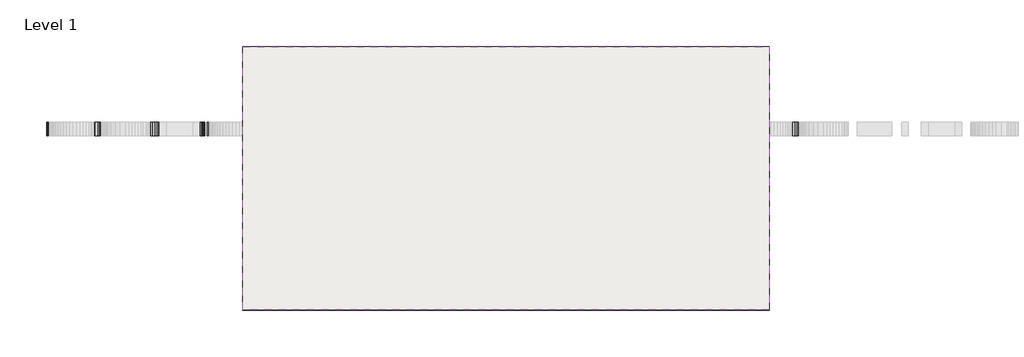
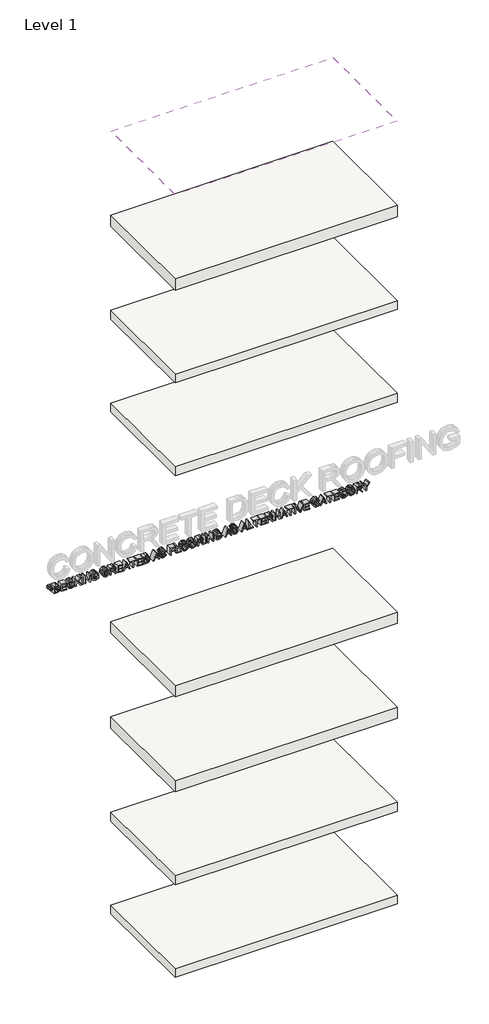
# One storey, part 1 of 2: 4 roofs, 4 slabs, 1 proxy.
"""IFC4 building model written with IfcOpenShell, lengths in millimetres."""

from ifc_helpers import new_model, si_unit, frame, origin, place, context, project, spatial, polyline, outline, extrude, element, save

model = new_model("IFC4")

# Units and contexts
model_context = context("Model", 3, world=origin())
ifc_project = project(units=[si_unit("LENGTHUNIT", "METRE", prefix="MILLI")], contexts=[model_context])

# Site, building, storey
site = spatial("IfcSite", under=ifc_project)
building = spatial("IfcBuilding", under=site)
storey = spatial("IfcBuildingStorey", under=building, Name="Level 1", Elevation=0.0)

# Proxy
placement = place(None, origin())
element("IfcBuildingElementProxy", 1, Name="8\" Alternative Note", ObjectType="8\" Alternative Note", at=placement, inside=storey, context=model_context, shape_type="SweptSolid", body=[
    extrude(outline(polyline([(-9914.1597913, -23817.1790035), (-9921.5844067, -23781.4724651), (-9946.6424836, -23805.6513112), (-9957.9259452, -23788.4086189), (-9929.3997913, -23769.1143881), (-9957.9259452, -23748.7943881), (-9946.6424836, -23731.4051574), (-9921.5844067, -23756.2678497), (-9914.1597913, -23720.2682343), (-9894.5236375, -23726.9113112), (-9907.8097913, -23761.2501574), (-9873.5197913, -23757.7820804), (-9873.5197913, -23779.6651574), (-9907.9563298, -23776.6366958), (-9894.5236375, -23810.4870804), (-9914.1597913, -23817.1790035)])), frame((0.0, 8681.5965573, 0.0), z_axis=(0.0, 1.0, 0.0), x_axis=(0.0, 0.0, 1.0)), (0.0, 0.0, 1.0), 152.4),
    extrude(outline(polyline([(-10073.5936375, -23695.2590035), (-10073.5936375, -23622.9178497), (-10070.1744067, -23590.7526574), (-10060.1365221, -23566.8424651), (-10041.990176, -23548.5740035), (-10012.8534452, -23534.8970804), (-9972.482099, -23529.5728497), (-9947.2042144, -23531.5389074), (-9924.9059452, -23537.4370804), (-9905.9536375, -23547.291792), (-9890.7136375, -23561.1274651), (-9881.9579644, -23574.5845804), (-9876.4017144, -23590.5328497), (-9873.5197913, -23626.2393881), (-9873.5197913, -23695.2590035), (-10073.5936375, -23695.2590035)]), holes=[polyline([(-10048.5844067, -23670.2497727), (-9898.5290221, -23670.2497727), (-9898.5290221, -23626.6790035), (-9902.5344067, -23591.2166958), (-9910.887099, -23577.0818401), (-9924.7105606, -23565.2549651), (-9944.835176, -23557.2503016), (-9972.0913298, -23554.5820804), (-10009.922676, -23560.0284266), (-10023.9354163, -23566.5554939), (-10034.7609452, -23575.2440035), (-10044.9697913, -23593.805542), (-10048.5844067, -23625.9951574), (-10048.5844067, -23670.2497727)])]), frame((0.0, 8681.5965573, 0.0), z_axis=(0.0, 1.0, 0.0), x_axis=(0.0, 0.0, 1.0)), (0.0, 0.0, 1.0), 152.4),
    extrude(outline(polyline([(-10073.5936375, -23495.1851574), (-10073.5936375, -23348.2559266), (-10048.5844067, -23348.2559266), (-10048.5844067, -23470.1759266), (-9982.935176, -23470.1759266), (-9982.935176, -23357.6343881), (-9957.9259452, -23357.6343881), (-9957.9259452, -23470.1759266), (-9898.5290221, -23470.1759266), (-9898.5290221, -23351.3820804), (-9873.5197913, -23351.3820804), (-9873.5197913, -23495.1851574), (-10073.5936375, -23495.1851574)])), frame((0.0, 8681.5965573, 0.0), z_axis=(0.0, 1.0, 0.0), x_axis=(0.0, 0.0, 1.0)), (0.0, 0.0, 1.0), 152.4),
    extrude(outline(polyline([(-10002.4736375, -23170.0651574), (-10023.892676, -23178.1553016), (-10039.3036375, -23191.2888112), (-10048.6088298, -23208.6841477), (-10051.7105606, -23229.5597727), (-10049.4331086, -23247.4679939), (-10042.6007529, -23264.0695804), (-10031.1646471, -23277.9174651), (-10015.0759452, -23287.5645804), (-9995.0978683, -23293.2246285), (-9971.9936375, -23295.1113112), (-9953.1268106, -23293.5177054), (-9934.8217144, -23288.7368881), (-9918.6292144, -23280.0239554), (-9906.100176, -23266.6340035), (-9898.0771952, -23248.9883304), (-9895.4028683, -23227.5082343), (-9897.8146471, -23208.8734266), (-9905.0499836, -23193.7066958), (-9917.5607048, -23181.8615035), (-9935.7986375, -23173.1913112), (-9929.8394067, -23148.1820804), (-9904.7324836, -23159.227417), (-9885.9755606, -23176.4395804), (-9874.2891183, -23199.1103016), (-9870.3936375, -23226.5313112), (-9873.4037817, -23251.6626574), (-9882.4342144, -23274.5959266), (-9897.2651279, -23293.9328977), (-9917.6767144, -23308.2753497), (-9942.8691183, -23317.1592439), (-9972.0424836, -23320.120542), (-9999.7016183, -23317.501167), (-10025.5290221, -23309.643042), (-10047.4975798, -23296.7720804), (-10063.580176, -23279.1141958), (-10073.4348875, -23256.0771285), (-10076.7197913, -23227.0686189), (-10072.3785894, -23198.4936189), (-10059.3549836, -23174.705542), (-10038.0641663, -23156.5958304), (-10008.9213298, -23145.0559266), (-10002.4736375, -23170.0651574)])), frame((0.0, 8681.5965573, 0.0), z_axis=(0.0, 1.0, 0.0), x_axis=(0.0, 0.0, 1.0)), (0.0, 0.0, 1.0), 152.4),
    extrude(outline(polyline([(-10073.5936375, -23110.6682343), (-10073.5936375, -23085.6590035), (-10004.8182529, -23085.6590035), (-9972.6774836, -23051.9551574), (-10073.5936375, -22975.5597727), (-10073.5936375, -22944.9820804), (-9955.7767144, -23034.2240035), (-9873.5197913, -22948.1082343), (-9873.5197913, -22983.0820804), (-9971.4563298, -23085.6590035), (-9873.5197913, -23085.6590035), (-9873.5197913, -23110.6682343), (-10073.5936375, -23110.6682343)])), frame((0.0, 8681.5965573, 0.0), z_axis=(0.0, 1.0, 0.0), x_axis=(0.0, 0.0, 1.0)), (0.0, 0.0, 1.0), 152.4),
    extrude(outline(polyline([(-22898.0897727, 8681.5965573), (-22923.0990035, 8681.5965573), (-22923.0990035, 8833.9965573), (-22898.0897727, 8833.9965573), (-22898.0897727, 8681.5965573)])), frame((0.0, 0.0, -10073.5936375), z_axis=(0.0, 0.0, 1.0), x_axis=(1.0, 0.0, 0.0)), (0.0, 0.0, 1.0), 200.0738462),
    extrude(outline(polyline([(-10073.5936375, -22848.0713112), (-10073.5936375, -22823.0620804), (-9915.0390221, -22823.0620804), (-10073.5936375, -22718.5313112), (-10073.5936375, -22691.7636189), (-9873.5197913, -22691.7636189), (-9873.5197913, -22716.7728497), (-10032.0255606, -22716.7728497), (-9873.5197913, -22821.3036189), (-9873.5197913, -22848.0713112), (-10073.5936375, -22848.0713112)])), frame((0.0, 8681.5965573, 0.0), z_axis=(0.0, 1.0, 0.0), x_axis=(0.0, 0.0, 1.0)), (0.0, 0.0, 1.0), 152.4),
    extrude(outline(polyline([(-9995.4397913, -22554.2128497), (-9995.4397913, -22497.9420804), (-10031.5859452, -22497.9420804), (-10045.2872913, -22523.2688112), (-10050.1047433, -22540.1634747), (-10051.7105606, -22557.485542), (-10049.5796471, -22577.1033785), (-10043.1869067, -22595.6099651), (-10032.4041183, -22611.4239074), (-10017.1030606, -22622.9638112), (-9997.4241663, -22630.0159747), (-9973.5078683, -22632.3666958), (-9953.114599, -22630.4128497), (-9934.2355606, -22624.5513112), (-9914.9657529, -22611.6803497), (-9900.8003683, -22589.8949651), (-9895.4028683, -22557.8763112), (-9900.409599, -22529.7653497), (-9913.744599, -22510.2757343), (-9936.8732529, -22498.8701574), (-9930.3767144, -22475.8147727), (-9911.894551, -22482.1830901), (-9897.2834452, -22490.9326574), (-9885.9999836, -22502.7595324), (-9877.5007529, -22518.3597727), (-9872.1704163, -22536.8846766), (-9870.3936375, -22557.485542), (-9873.4587336, -22585.5476574), (-9882.6540221, -22610.1416958), (-9898.1565702, -22630.3334747), (-9920.1434452, -22645.1888112), (-9946.3555125, -22654.3291477), (-9974.5336375, -22657.3759266), (-10002.5102721, -22654.3169362), (-10027.727099, -22645.1399651), (-10048.7492625, -22629.9610227), (-10064.1419067, -22608.8961189), (-10073.5753202, -22583.5388593), (-10076.7197913, -22555.4828497), (-10074.7415221, -22534.0088593), (-10068.8067144, -22513.0599651), (-10058.9520029, -22492.6850131), (-10045.2140221, -22472.9328497), (-9970.4305606, -22472.9328497), (-9970.4305606, -22554.2128497), (-9995.4397913, -22554.2128497)])), frame((0.0, 8681.5965573, 0.0), z_axis=(0.0, 1.0, 0.0), x_axis=(0.0, 0.0, 1.0)), (0.0, 0.0, 1.0), 152.4),
    extrude(outline(polyline([(-10002.4736375, -22213.4620804), (-10023.892676, -22221.5522247), (-10039.3036375, -22234.6857343), (-10048.6088298, -22252.0810708), (-10051.7105606, -22272.9566958), (-10049.4331086, -22290.864917), (-10042.6007529, -22307.4665035), (-10031.1646471, -22321.3143881), (-10015.0759452, -22330.9615035), (-9995.0978683, -22336.6215516), (-9971.9936375, -22338.5082343), (-9953.1268106, -22336.9146285), (-9934.8217144, -22332.1338112), (-9918.6292144, -22323.4208785), (-9906.100176, -22310.0309266), (-9898.0771952, -22292.3852535), (-9895.4028683, -22270.9051574), (-9897.8146471, -22252.2703497), (-9905.0499836, -22237.1036189), (-9917.5607048, -22225.2584266), (-9935.7986375, -22216.5882343), (-9929.8394067, -22191.5790035), (-9904.7324836, -22202.6243401), (-9885.9755606, -22219.8365035), (-9874.2891183, -22242.5072247), (-9870.3936375, -22269.9282343), (-9873.4037817, -22295.0595804), (-9882.4342144, -22317.9928497), (-9897.2651279, -22337.3298208), (-9917.6767144, -22351.6722727), (-9942.8691183, -22360.556167), (-9972.0424836, -22363.5174651), (-9999.7016183, -22360.8980901), (-10025.5290221, -22353.0399651), (-10047.4975798, -22340.1690035), (-10063.580176, -22322.5111189), (-10073.4348875, -22299.4740516), (-10076.7197913, -22270.465542), (-10072.3785894, -22241.890542), (-10059.3549836, -22218.1024651), (-10038.0641663, -22199.9927535), (-10008.9213298, -22188.4528497), (-10002.4736375, -22213.4620804)])), frame((0.0, 8681.5965573, 0.0), z_axis=(0.0, 1.0, 0.0), x_axis=(0.0, 0.0, 1.0)), (0.0, 0.0, 1.0), 152.4),
    extrude(outline(polyline([(-10073.5936375, -22154.0651574), (-10073.5936375, -22129.0559266), (-9986.0613298, -22129.0559266), (-9986.0613298, -22098.8690035), (-9986.9405606, -22084.3616958), (-9991.7030606, -22072.4676574), (-10004.6717144, -22059.2547727), (-10032.1232529, -22040.4490035), (-10073.5936375, -22014.4140035), (-10073.5936375, -21985.350542), (-10019.3744067, -22018.7124651), (-9993.6324836, -22038.9836189), (-9982.935176, -22053.1978497), (-9976.3043106, -22028.5610708), (-9964.3247913, -22011.3122727), (-9947.9857529, -22001.146167), (-9928.2763298, -21997.7574651), (-9912.4318586, -21999.8028977), (-9898.0161375, -22005.9391958), (-9886.3907529, -22015.5008304), (-9878.9172913, -22027.8222727), (-9874.8691663, -22044.6803016), (-9873.5197913, -22067.8516958), (-9873.5197913, -22154.0651574), (-10073.5936375, -22154.0651574)]), holes=[polyline([(-9961.052099, -22129.0559266), (-9898.5290221, -22129.0559266), (-9898.5290221, -22066.7770804), (-9900.6904644, -22046.9882824), (-9907.1747913, -22033.3418881), (-9917.0050798, -22025.4104939), (-9929.2044067, -22022.7666958), (-9946.1784452, -22028.3107343), (-9952.9070029, -22035.1369843), (-9957.5107529, -22044.5276574), (-9961.052099, -22073.0782343), (-9961.052099, -22129.0559266)])]), frame((0.0, 8681.5965573, 0.0), z_axis=(0.0, 1.0, 0.0), x_axis=(0.0, 0.0, 1.0)), (0.0, 0.0, 1.0), 152.4),
    extrude(outline(polyline([(-10073.5936375, -21953.9913112), (-10073.5936375, -21807.0620804), (-10048.5844067, -21807.0620804), (-10048.5844067, -21928.9820804), (-9982.935176, -21928.9820804), (-9982.935176, -21816.440542), (-9957.9259452, -21816.440542), (-9957.9259452, -21928.9820804), (-9898.5290221, -21928.9820804), (-9898.5290221, -21810.1882343), (-9873.5197913, -21810.1882343), (-9873.5197913, -21953.9913112), (-10073.5936375, -21953.9913112)])), frame((0.0, 8681.5965573, 0.0), z_axis=(0.0, 1.0, 0.0), x_axis=(0.0, 0.0, 1.0)), (0.0, 0.0, 1.0), 152.4),
    extrude(outline(polyline([(-10073.5936375, -21792.8478497), (-10073.5936375, -21766.4220804), (-10011.0705606, -21743.5620804), (-10011.0705606, -21661.1586189), (-10073.5936375, -21638.2497727), (-10073.5936375, -21611.8240035), (-9873.5197913, -21691.6874651), (-9873.5197913, -21712.9843881), (-10073.5936375, -21792.8478497)]), holes=[polyline([(-9986.0613298, -21734.3790035), (-9932.5747913, -21714.7916958), (-9898.5290221, -21702.3359266), (-9936.8732529, -21688.3170804), (-9986.0613298, -21670.2928497), (-9986.0613298, -21734.3790035)])]), frame((0.0, 8681.5965573, 0.0), z_axis=(0.0, 1.0, 0.0), x_axis=(0.0, 0.0, 1.0)), (0.0, 0.0, 1.0), 152.4),
    extrude(outline(polyline([(-10073.5936375, -21535.0866958), (-10073.5936375, -21510.0774651), (-9898.5290221, -21510.0774651), (-9898.5290221, -21444.4282343), (-9873.5197913, -21444.4282343), (-9873.5197913, -21600.7359266), (-9898.5290221, -21600.7359266), (-9898.5290221, -21535.0866958), (-10073.5936375, -21535.0866958)])), frame((0.0, 8681.5965573, 0.0), z_axis=(0.0, 1.0, 0.0), x_axis=(0.0, 0.0, 1.0)), (0.0, 0.0, 1.0), 152.4),
    extrude(outline(polyline([(-10073.5936375, -21416.2928497), (-10073.5936375, -21269.3636189), (-10048.5844067, -21269.3636189), (-10048.5844067, -21391.2836189), (-9982.935176, -21391.2836189), (-9982.935176, -21278.7420804), (-9957.9259452, -21278.7420804), (-9957.9259452, -21391.2836189), (-9898.5290221, -21391.2836189), (-9898.5290221, -21272.4897727), (-9873.5197913, -21272.4897727), (-9873.5197913, -21416.2928497), (-10073.5936375, -21416.2928497)])), frame((0.0, 8681.5965573, 0.0), z_axis=(0.0, 1.0, 0.0), x_axis=(0.0, 0.0, 1.0)), (0.0, 0.0, 1.0), 152.4),
    extrude(outline(polyline([(-10073.5936375, -21231.8497727), (-10073.5936375, -21159.5086189), (-10070.1744067, -21127.3434266), (-10060.1365221, -21103.4332343), (-10041.990176, -21085.1647727), (-10012.8534452, -21071.4878497), (-9972.482099, -21066.1636189), (-9947.2042144, -21068.1296766), (-9924.9059452, -21074.0278497), (-9905.9536375, -21083.8825612), (-9890.7136375, -21097.7182343), (-9881.9579644, -21111.1753497), (-9876.4017144, -21127.1236189), (-9873.5197913, -21162.8301574), (-9873.5197913, -21231.8497727), (-10073.5936375, -21231.8497727)]), holes=[polyline([(-10048.5844067, -21206.840542), (-9898.5290221, -21206.840542), (-9898.5290221, -21163.2697727), (-9902.5344067, -21127.8074651), (-9910.887099, -21113.6726093), (-9924.7105606, -21101.8457343), (-9944.835176, -21093.8410708), (-9972.0913298, -21091.1728497), (-10009.922676, -21096.6191958), (-10023.9354163, -21103.1462631), (-10034.7609452, -21111.8347727), (-10044.9697913, -21130.3963112), (-10048.5844067, -21162.5859266), (-10048.5844067, -21206.840542)])]), frame((0.0, 8681.5965573, 0.0), z_axis=(0.0, 1.0, 0.0), x_axis=(0.0, 0.0, 1.0)), (0.0, 0.0, 1.0), 152.4),
    extrude(outline(polyline([(-10073.5936375, -20976.9216958), (-10073.5936375, -20950.4959266), (-10011.0705606, -20927.6359266), (-10011.0705606, -20845.2324651), (-10073.5936375, -20822.3236189), (-10073.5936375, -20795.8978497), (-9873.5197913, -20875.7613112), (-9873.5197913, -20897.0582343), (-10073.5936375, -20976.9216958)]), holes=[polyline([(-9986.0613298, -20918.4528497), (-9932.5747913, -20898.865542), (-9898.5290221, -20886.4097727), (-9936.8732529, -20872.3909266), (-9986.0613298, -20854.3666958), (-9986.0613298, -20918.4528497)])]), frame((0.0, 8681.5965573, 0.0), z_axis=(0.0, 1.0, 0.0), x_axis=(0.0, 0.0, 1.0)), (0.0, 0.0, 1.0), 152.4),
    extrude(outline(polyline([(-10004.8182529, -20778.5574651), (-10025.0161375, -20775.5900612), (-10043.0159452, -20767.7624651), (-10057.7919067, -20755.5692439), (-10068.3182529, -20739.5049651), (-10074.6194067, -20719.3376093), (-10076.7197913, -20694.8351574), (-10074.772051, -20674.8753977), (-10068.9288298, -20657.0038112), (-10059.5747913, -20642.1423689), (-10047.094599, -20631.213042), (-10032.5933971, -20624.4905901), (-10017.1763298, -20622.2497727), (-10002.0950798, -20624.1975131), (-9988.8944067, -20630.0407343), (-9977.696426, -20639.9870324), (-9968.6232529, -20654.2440035), (-9956.0697913, -20698.4986189), (-9949.0115221, -20725.2174651), (-9942.0997913, -20739.3340035), (-9934.3698875, -20745.3054458), (-9924.7594067, -20747.2959266), (-9913.4881567, -20744.4872727), (-9903.9997913, -20736.0613112), (-9897.552099, -20721.4929458), (-9895.4028683, -20700.2570804), (-9897.5765221, -20679.5096766), (-9904.0974836, -20664.550542), (-9914.8680606, -20654.9766958), (-9929.7905606, -20650.3851574), (-9929.7905606, -20625.3759266), (-9913.2195029, -20628.196792), (-9898.480176, -20635.2916958), (-9886.3296952, -20646.5018881), (-9877.525176, -20661.6686189), (-9872.1765221, -20680.1324651), (-9870.3936375, -20701.2340035), (-9872.0971471, -20720.7114074), (-9877.207676, -20738.3082343), (-9885.6092144, -20752.9681862), (-9897.1857529, -20763.6349651), (-9910.8443586, -20770.1376093), (-9925.492099, -20772.3051574), (-9938.5950798, -20770.5528016), (-9950.3547913, -20765.2957343), (-9960.551426, -20756.4728977), (-9968.965176, -20744.0232343), (-9981.2988298, -20704.8241958), (-9990.8482529, -20668.4093881), (-9996.032051, -20657.7365035), (-10002.2049836, -20651.4109266), (-10017.8113298, -20647.2590035), (-10034.5899836, -20652.803042), (-10047.1434452, -20669.6793881), (-10051.7105606, -20695.8120804), (-10050.2024356, -20711.6382343), (-10045.6780606, -20725.8036189), (-10038.7052721, -20737.3923689), (-10029.8519067, -20745.4886189), (-10004.8182529, -20753.5482343), (-10004.8182529, -20778.5574651)])), frame((0.0, 8681.5965573, 0.0), z_axis=(0.0, 1.0, 0.0), x_axis=(0.0, 0.0, 1.0)), (0.0, 0.0, 1.0), 152.4),
    extrude(outline(polyline([(-10073.5936375, -20506.5820804), (-10073.5936375, -20481.5728497), (-9982.935176, -20481.5728497), (-9982.935176, -20387.7882343), (-9957.9259452, -20387.7882343), (-9957.9259452, -20481.5728497), (-9898.5290221, -20481.5728497), (-9898.5290221, -20372.1574651), (-9873.5197913, -20372.1574651), (-9873.5197913, -20506.5820804), (-10073.5936375, -20506.5820804)])), frame((0.0, 8681.5965573, 0.0), z_axis=(0.0, 1.0, 0.0), x_axis=(0.0, 0.0, 1.0)), (0.0, 0.0, 1.0), 152.4),
    extrude(outline(polyline([(-10073.5936375, -20337.7697727), (-10073.5936375, -20212.7236189), (-10048.5844067, -20212.7236189), (-10048.5844067, -20312.760542), (-9873.5197913, -20312.760542), (-9873.5197913, -20337.7697727), (-10073.5936375, -20337.7697727)])), frame((0.0, 8681.5965573, 0.0), z_axis=(0.0, 1.0, 0.0), x_axis=(0.0, 0.0, 1.0)), (0.0, 0.0, 1.0), 152.4),
    extrude(outline(polyline([(-9976.1944067, -20193.9666958), (-10001.7836856, -20191.1091958), (-10025.9930606, -20182.5366958), (-10047.0335413, -20168.4201574), (-10063.1161375, -20148.930542), (-10073.3188779, -20125.2645804), (-10076.7197913, -20098.6190035), (-10073.6424836, -20073.5181862), (-10064.4105606, -20050.188042), (-10049.1949836, -20030.2954458), (-10028.1667144, -20015.5072727), (-10002.6323875, -20006.3303016), (-9973.8986375, -20003.2713112), (-9945.5434452, -20006.1776574), (-9920.3632529, -20014.8966958), (-9899.3716183, -20029.1597727), (-9883.582099, -20048.6982343), (-9873.6907529, -20072.2298689), (-9870.3936375, -20098.4724651), (-9872.1490461, -20118.581816), (-9877.4152721, -20136.7556381), (-9886.1923154, -20152.9939314), (-9898.480176, -20167.2966958), (-9913.8697673, -20178.9648208), (-9931.9520029, -20187.2991958), (-9952.7268827, -20192.2998208), (-9976.1944067, -20193.9666958)]), holes=[polyline([(-9976.4386375, -20168.9574651), (-9939.0163779, -20163.7431381), (-9924.9898995, -20157.2252295), (-9914.0865221, -20148.1001574), (-9900.0737817, -20125.2279458), (-9895.4028683, -20098.3259266), (-9897.8268586, -20078.9645324), (-9905.0988298, -20061.618042), (-9916.7791663, -20047.2389554), (-9932.4282529, -20036.7797727), (-9951.5637336, -20030.4053497), (-9973.7032529, -20028.280542), (-10006.8087336, -20033.2445324), (-10020.1651038, -20039.4495203), (-10031.3905606, -20048.1365035), (-10046.6305606, -20070.7217439), (-10051.7105606, -20098.765542), (-10046.6794067, -20126.4063593), (-10031.5859452, -20148.9549651), (-10007.7368106, -20163.9568401), (-9976.4386375, -20168.9574651)])]), frame((0.0, 8681.5965573, 0.0), z_axis=(0.0, 1.0, 0.0), x_axis=(0.0, 0.0, 1.0)), (0.0, 0.0, 1.0), 152.4),
    extrude(outline(polyline([(-9976.1944067, -19978.2620804), (-10001.7836856, -19975.4045804), (-10025.9930606, -19966.8320804), (-10047.0335413, -19952.715542), (-10063.1161375, -19933.2259266), (-10073.3188779, -19909.5599651), (-10076.7197913, -19882.9143881), (-10073.6424836, -19857.8135708), (-10064.4105606, -19834.4834266), (-10049.1949836, -19814.5908304), (-10028.1667144, -19799.8026574), (-10002.6323875, -19790.6256862), (-9973.8986375, -19787.5666958), (-9945.5434452, -19790.473042), (-9920.3632529, -19799.1920804), (-9899.3716183, -19813.4551574), (-9883.582099, -19832.9936189), (-9873.6907529, -19856.5252535), (-9870.3936375, -19882.7678497), (-9872.1490461, -19902.8772006), (-9877.4152721, -19921.0510227), (-9886.1923154, -19937.289316), (-9898.480176, -19951.5920804), (-9913.8697673, -19963.2602054), (-9931.9520029, -19971.5945804), (-9952.7268827, -19976.5952054), (-9976.1944067, -19978.2620804)]), holes=[polyline([(-9976.4386375, -19953.2528497), (-9939.0163779, -19948.0385227), (-9924.9898995, -19941.5206141), (-9914.0865221, -19932.395542), (-9900.0737817, -19909.5233304), (-9895.4028683, -19882.6213112), (-9897.8268586, -19863.259917), (-9905.0988298, -19845.9134266), (-9916.7791663, -19831.5343401), (-9932.4282529, -19821.0751574), (-9951.5637336, -19814.7007343), (-9973.7032529, -19812.5759266), (-10006.8087336, -19817.539917), (-10020.1651038, -19823.744905), (-10031.3905606, -19832.4318881), (-10046.6305606, -19855.0171285), (-10051.7105606, -19883.0609266), (-10046.6794067, -19910.7017439), (-10031.5859452, -19933.2503497), (-10007.7368106, -19948.2522247), (-9976.4386375, -19953.2528497)])]), frame((0.0, 8681.5965573, 0.0), z_axis=(0.0, 1.0, 0.0), x_axis=(0.0, 0.0, 1.0)), (0.0, 0.0, 1.0), 152.4),
    extrude(outline(polyline([(-10073.5936375, -19753.1790035), (-10073.5936375, -19728.1697727), (-9986.0613298, -19728.1697727), (-9986.0613298, -19697.9828497), (-9986.9405606, -19683.475542), (-9991.7030606, -19671.5815035), (-10004.6717144, -19658.3686189), (-10032.1232529, -19639.5628497), (-10073.5936375, -19613.5278497), (-10073.5936375, -19584.4643881), (-10019.3744067, -19617.8263112), (-9993.6324836, -19638.0974651), (-9982.935176, -19652.3116958), (-9976.3043106, -19627.674917), (-9964.3247913, -19610.4261189), (-9947.9857529, -19600.2600131), (-9928.2763298, -19596.8713112), (-9912.4318586, -19598.9167439), (-9898.0161375, -19605.053042), (-9886.3907529, -19614.6146766), (-9878.9172913, -19626.9361189), (-9874.8691663, -19643.7941477), (-9873.5197913, -19666.965542), (-9873.5197913, -19753.1790035), (-10073.5936375, -19753.1790035)]), holes=[polyline([(-9961.052099, -19728.1697727), (-9898.5290221, -19728.1697727), (-9898.5290221, -19665.8909266), (-9900.6904644, -19646.1021285), (-9907.1747913, -19632.4557343), (-9917.0050798, -19624.5243401), (-9929.2044067, -19621.880542), (-9946.1784452, -19627.4245804), (-9952.9070029, -19634.2508304), (-9957.5107529, -19643.6415035), (-9961.052099, -19672.1920804), (-9961.052099, -19728.1697727)])]), frame((0.0, 8681.5965573, 0.0), z_axis=(0.0, 1.0, 0.0), x_axis=(0.0, 0.0, 1.0)), (0.0, 0.0, 1.0), 152.4),
    extrude(outline(polyline([(-19524.9697727, 8681.5965573), (-19549.9790035, 8681.5965573), (-19549.9790035, 8833.9965573), (-19524.9697727, 8833.9965573), (-19524.9697727, 8681.5965573)])), frame((0.0, 0.0, -10073.5936375), z_axis=(0.0, 0.0, 1.0), x_axis=(1.0, 0.0, 0.0)), (0.0, 0.0, 1.0), 200.0738462),
    extrude(outline(polyline([(-10073.5936375, -19474.9513112), (-10073.5936375, -19449.9420804), (-9915.0390221, -19449.9420804), (-10073.5936375, -19345.4113112), (-10073.5936375, -19318.6436189), (-9873.5197913, -19318.6436189), (-9873.5197913, -19343.6528497), (-10032.0255606, -19343.6528497), (-9873.5197913, -19448.1836189), (-9873.5197913, -19474.9513112), (-10073.5936375, -19474.9513112)])), frame((0.0, 8681.5965573, 0.0), z_axis=(0.0, 1.0, 0.0), x_axis=(0.0, 0.0, 1.0)), (0.0, 0.0, 1.0), 152.4),
    extrude(outline(polyline([(-9995.4397913, -19181.0928497), (-9995.4397913, -19124.8220804), (-10031.5859452, -19124.8220804), (-10045.2872913, -19150.1488112), (-10050.1047433, -19167.0434747), (-10051.7105606, -19184.365542), (-10049.5796471, -19203.9833785), (-10043.1869067, -19222.4899651), (-10032.4041183, -19238.3039074), (-10017.1030606, -19249.8438112), (-9997.4241663, -19256.8959747), (-9973.5078683, -19259.2466958), (-9953.114599, -19257.2928497), (-9934.2355606, -19251.4313112), (-9914.9657529, -19238.5603497), (-9900.8003683, -19216.7749651), (-9895.4028683, -19184.7563112), (-9900.409599, -19156.6453497), (-9913.744599, -19137.1557343), (-9936.8732529, -19125.7501574), (-9930.3767144, -19102.6947727), (-9911.894551, -19109.0630901), (-9897.2834452, -19117.8126574), (-9885.9999836, -19129.6395324), (-9877.5007529, -19145.2397727), (-9872.1704163, -19163.7646766), (-9870.3936375, -19184.365542), (-9873.4587336, -19212.4276574), (-9882.6540221, -19237.0216958), (-9898.1565702, -19257.2134747), (-9920.1434452, -19272.0688112), (-9946.3555125, -19281.2091477), (-9974.5336375, -19284.2559266), (-10002.5102721, -19281.1969362), (-10027.727099, -19272.0199651), (-10048.7492625, -19256.8410227), (-10064.1419067, -19235.7761189), (-10073.5753202, -19210.4188593), (-10076.7197913, -19182.3628497), (-10074.7415221, -19160.8888593), (-10068.8067144, -19139.9399651), (-10058.9520029, -19119.5650131), (-10045.2140221, -19099.8128497), (-9970.4305606, -19099.8128497), (-9970.4305606, -19181.0928497), (-9995.4397913, -19181.0928497)])), frame((0.0, 8681.5965573, 0.0), z_axis=(0.0, 1.0, 0.0), x_axis=(0.0, 0.0, 1.0)), (0.0, 0.0, 1.0), 152.4),
    extrude(outline(polyline([(-10073.5936375, -19004.3186189), (-10073.5936375, -18977.8928497), (-10011.0705606, -18955.0328497), (-10011.0705606, -18872.6293881), (-10073.5936375, -18849.720542), (-10073.5936375, -18823.2947727), (-9873.5197913, -18903.1582343), (-9873.5197913, -18924.4551574), (-10073.5936375, -19004.3186189)]), holes=[polyline([(-9986.0613298, -18945.8497727), (-9932.5747913, -18926.2624651), (-9898.5290221, -18913.8066958), (-9936.8732529, -18899.7878497), (-9986.0613298, -18881.7636189), (-9986.0613298, -18945.8497727)])]), frame((0.0, 8681.5965573, 0.0), z_axis=(0.0, 1.0, 0.0), x_axis=(0.0, 0.0, 1.0)), (0.0, 0.0, 1.0), 152.4),
    extrude(outline(polyline([(-10004.8182529, -18805.9543881), (-10025.0161375, -18802.9869843), (-10043.0159452, -18795.1593881), (-10057.7919067, -18782.966167), (-10068.3182529, -18766.9018881), (-10074.6194067, -18746.7345324), (-10076.7197913, -18722.2320804), (-10074.772051, -18702.2723208), (-10068.9288298, -18684.4007343), (-10059.5747913, -18669.539292), (-10047.094599, -18658.6099651), (-10032.5933971, -18651.8875131), (-10017.1763298, -18649.6466958), (-10002.0950798, -18651.5944362), (-9988.8944067, -18657.4376574), (-9977.696426, -18667.3839554), (-9968.6232529, -18681.6409266), (-9956.0697913, -18725.895542), (-9949.0115221, -18752.6143881), (-9942.0997913, -18766.7309266), (-9934.3698875, -18772.7023689), (-9924.7594067, -18774.6928497), (-9913.4881567, -18771.8841958), (-9903.9997913, -18763.4582343), (-9897.552099, -18748.8898689), (-9895.4028683, -18727.6540035), (-9897.5765221, -18706.9065997), (-9904.0974836, -18691.9474651), (-9914.8680606, -18682.3736189), (-9929.7905606, -18677.7820804), (-9929.7905606, -18652.7728497), (-9913.2195029, -18655.5937151), (-9898.480176, -18662.6886189), (-9886.3296952, -18673.8988112), (-9877.525176, -18689.065542), (-9872.1765221, -18707.5293881), (-9870.3936375, -18728.6309266), (-9872.0971471, -18748.1083304), (-9877.207676, -18765.7051574), (-9885.6092144, -18780.3651093), (-9897.1857529, -18791.0318881), (-9910.8443586, -18797.5345324), (-9925.492099, -18799.7020804), (-9938.5950798, -18797.9497247), (-9950.3547913, -18792.6926574), (-9960.551426, -18783.8698208), (-9968.965176, -18771.4201574), (-9981.2988298, -18732.2211189), (-9990.8482529, -18695.8063112), (-9996.032051, -18685.1334266), (-10002.2049836, -18678.8078497), (-10017.8113298, -18674.6559266), (-10034.5899836, -18680.1999651), (-10047.1434452, -18697.0763112), (-10051.7105606, -18723.2090035), (-10050.2024356, -18739.0351574), (-10045.6780606, -18753.200542), (-10038.7052721, -18764.789292), (-10029.8519067, -18772.885542), (-10004.8182529, -18780.9451574), (-10004.8182529, -18805.9543881)])), frame((0.0, 8681.5965573, 0.0), z_axis=(0.0, 1.0, 0.0), x_axis=(0.0, 0.0, 1.0)), (0.0, 0.0, 1.0), 152.4),
    extrude(outline(polyline([(-10073.5936375, -18557.2786189), (-10073.5936375, -18530.8528497), (-10011.0705606, -18507.9928497), (-10011.0705606, -18425.5893881), (-10073.5936375, -18402.680542), (-10073.5936375, -18376.2547727), (-9873.5197913, -18456.1182343), (-9873.5197913, -18477.4151574), (-10073.5936375, -18557.2786189)]), holes=[polyline([(-9986.0613298, -18498.8097727), (-9932.5747913, -18479.2224651), (-9898.5290221, -18466.7666958), (-9936.8732529, -18452.7478497), (-9986.0613298, -18434.7236189), (-9986.0613298, -18498.8097727)])]), frame((0.0, 8681.5965573, 0.0), z_axis=(0.0, 1.0, 0.0), x_axis=(0.0, 0.0, 1.0)), (0.0, 0.0, 1.0), 152.4),
    extrude(outline(polyline([(-10073.5936375, -18349.5359266), (-10073.5936375, -18224.4897727), (-10048.5844067, -18224.4897727), (-10048.5844067, -18324.5266958), (-9873.5197913, -18324.5266958), (-9873.5197913, -18349.5359266), (-10073.5936375, -18349.5359266)])), frame((0.0, 8681.5965573, 0.0), z_axis=(0.0, 1.0, 0.0), x_axis=(0.0, 0.0, 1.0)), (0.0, 0.0, 1.0), 152.4),
    extrude(outline(polyline([(-10073.5936375, -18146.3359266), (-10073.5936375, -18121.3266958), (-9898.5290221, -18121.3266958), (-9898.5290221, -18055.6774651), (-9873.5197913, -18055.6774651), (-9873.5197913, -18211.9851574), (-9898.5290221, -18211.9851574), (-9898.5290221, -18146.3359266), (-10073.5936375, -18146.3359266)])), frame((0.0, 8681.5965573, 0.0), z_axis=(0.0, 1.0, 0.0), x_axis=(0.0, 0.0, 1.0)), (0.0, 0.0, 1.0), 152.4),
    extrude(outline(polyline([(-10073.5936375, -18027.5420804), (-10073.5936375, -17880.6128497), (-10048.5844067, -17880.6128497), (-10048.5844067, -18002.5328497), (-9982.935176, -18002.5328497), (-9982.935176, -17889.9913112), (-9957.9259452, -17889.9913112), (-9957.9259452, -18002.5328497), (-9898.5290221, -18002.5328497), (-9898.5290221, -17883.7390035), (-9873.5197913, -17883.7390035), (-9873.5197913, -18027.5420804), (-10073.5936375, -18027.5420804)])), frame((0.0, 8681.5965573, 0.0), z_axis=(0.0, 1.0, 0.0), x_axis=(0.0, 0.0, 1.0)), (0.0, 0.0, 1.0), 152.4),
    extrude(outline(polyline([(-10073.5936375, -17843.0990035), (-10073.5936375, -17818.0897727), (-9986.0613298, -17818.0897727), (-9986.0613298, -17787.9028497), (-9986.9405606, -17773.395542), (-9991.7030606, -17761.5015035), (-10004.6717144, -17748.2886189), (-10032.1232529, -17729.4828497), (-10073.5936375, -17703.4478497), (-10073.5936375, -17674.3843881), (-10019.3744067, -17707.7463112), (-9993.6324836, -17728.0174651), (-9982.935176, -17742.2316958), (-9976.3043106, -17717.594917), (-9964.3247913, -17700.3461189), (-9947.9857529, -17690.1800131), (-9928.2763298, -17686.7913112), (-9912.4318586, -17688.8367439), (-9898.0161375, -17694.973042), (-9886.3907529, -17704.5346766), (-9878.9172913, -17716.8561189), (-9874.8691663, -17733.7141477), (-9873.5197913, -17756.885542), (-9873.5197913, -17843.0990035), (-10073.5936375, -17843.0990035)]), holes=[polyline([(-9961.052099, -17818.0897727), (-9898.5290221, -17818.0897727), (-9898.5290221, -17755.8109266), (-9900.6904644, -17736.0221285), (-9907.1747913, -17722.3757343), (-9917.0050798, -17714.4443401), (-9929.2044067, -17711.800542), (-9946.1784452, -17717.3445804), (-9952.9070029, -17724.1708304), (-9957.5107529, -17733.5615035), (-9961.052099, -17762.1120804), (-9961.052099, -17818.0897727)])]), frame((0.0, 8681.5965573, 0.0), z_axis=(0.0, 1.0, 0.0), x_axis=(0.0, 0.0, 1.0)), (0.0, 0.0, 1.0), 152.4),
    extrude(outline(polyline([(-10073.5936375, -17643.0251574), (-10073.5936375, -17618.0159266), (-9915.0390221, -17618.0159266), (-10073.5936375, -17513.4851574), (-10073.5936375, -17486.7174651), (-9873.5197913, -17486.7174651), (-9873.5197913, -17511.7266958), (-10032.0255606, -17511.7266958), (-9873.5197913, -17616.2574651), (-9873.5197913, -17643.0251574), (-10073.5936375, -17643.0251574)])), frame((0.0, 8681.5965573, 0.0), z_axis=(0.0, 1.0, 0.0), x_axis=(0.0, 0.0, 1.0)), (0.0, 0.0, 1.0), 152.4),
    extrude(outline(polyline([(-10073.5936375, -17466.2509266), (-10073.5936375, -17439.8251574), (-10011.0705606, -17416.9651574), (-10011.0705606, -17334.5616958), (-10073.5936375, -17311.6528497), (-10073.5936375, -17285.2270804), (-9873.5197913, -17365.090542), (-9873.5197913, -17386.3874651), (-10073.5936375, -17466.2509266)]), holes=[polyline([(-9986.0613298, -17407.7820804), (-9932.5747913, -17388.1947727), (-9898.5290221, -17375.7390035), (-9936.8732529, -17361.7201574), (-9986.0613298, -17343.6959266), (-9986.0613298, -17407.7820804)])]), frame((0.0, 8681.5965573, 0.0), z_axis=(0.0, 1.0, 0.0), x_axis=(0.0, 0.0, 1.0)), (0.0, 0.0, 1.0), 152.4),
    extrude(outline(polyline([(-10073.5936375, -17208.4897727), (-10073.5936375, -17183.480542), (-9898.5290221, -17183.480542), (-9898.5290221, -17117.8313112), (-9873.5197913, -17117.8313112), (-9873.5197913, -17274.1390035), (-9898.5290221, -17274.1390035), (-9898.5290221, -17208.4897727), (-10073.5936375, -17208.4897727)])), frame((0.0, 8681.5965573, 0.0), z_axis=(0.0, 1.0, 0.0), x_axis=(0.0, 0.0, 1.0)), (0.0, 0.0, 1.0), 152.4),
    extrude(outline(polyline([(-17061.560542, 8681.5965573), (-17086.5697727, 8681.5965573), (-17086.5697727, 8833.9965573), (-17061.560542, 8833.9965573), (-17061.560542, 8681.5965573)])), frame((0.0, 0.0, -10073.5936375), z_axis=(0.0, 0.0, 1.0), x_axis=(1.0, 0.0, 0.0)), (0.0, 0.0, 1.0), 200.0738462),
    extrude(outline(polyline([(-10073.5936375, -16952.4382343), (-10073.5936375, -16926.5986189), (-9873.5197913, -16850.3497727), (-9873.5197913, -16877.1174651), (-10017.6647913, -16930.5551574), (-10050.1474836, -16941.2036189), (-10017.6647913, -16951.9986189), (-9873.5197913, -17005.2897727), (-9873.5197913, -17032.0574651), (-10073.5936375, -16952.4382343)])), frame((0.0, 8681.5965573, 0.0), z_axis=(0.0, 1.0, 0.0), x_axis=(0.0, 0.0, 1.0)), (0.0, 0.0, 1.0), 152.4),
    extrude(outline(polyline([(-10073.5936375, -16827.0990035), (-10073.5936375, -16680.1697727), (-10048.5844067, -16680.1697727), (-10048.5844067, -16802.0897727), (-9982.935176, -16802.0897727), (-9982.935176, -16689.5482343), (-9957.9259452, -16689.5482343), (-9957.9259452, -16802.0897727), (-9898.5290221, -16802.0897727), (-9898.5290221, -16683.2959266), (-9873.5197913, -16683.2959266), (-9873.5197913, -16827.0990035), (-10073.5936375, -16827.0990035)])), frame((0.0, 8681.5965573, 0.0), z_axis=(0.0, 1.0, 0.0), x_axis=(0.0, 0.0, 1.0)), (0.0, 0.0, 1.0), 152.4),
    extrude(outline(polyline([(-10002.4736375, -16423.8251574), (-10023.892676, -16431.9153016), (-10039.3036375, -16445.0488112), (-10048.6088298, -16462.4441477), (-10051.7105606, -16483.3197727), (-10049.4331086, -16501.2279939), (-10042.6007529, -16517.8295804), (-10031.1646471, -16531.6774651), (-10015.0759452, -16541.3245804), (-9995.0978683, -16546.9846285), (-9971.9936375, -16548.8713112), (-9953.1268106, -16547.2777054), (-9934.8217144, -16542.4968881), (-9918.6292144, -16533.7839554), (-9906.100176, -16520.3940035), (-9898.0771952, -16502.7483304), (-9895.4028683, -16481.2682343), (-9897.8146471, -16462.6334266), (-9905.0499836, -16447.4666958), (-9917.5607048, -16435.6215035), (-9935.7986375, -16426.9513112), (-9929.8394067, -16401.9420804), (-9904.7324836, -16412.987417), (-9885.9755606, -16430.1995804), (-9874.2891183, -16452.8703016), (-9870.3936375, -16480.2913112), (-9873.4037817, -16505.4226574), (-9882.4342144, -16528.3559266), (-9897.2651279, -16547.6928977), (-9917.6767144, -16562.0353497), (-9942.8691183, -16570.9192439), (-9972.0424836, -16573.880542), (-9999.7016183, -16571.261167), (-10025.5290221, -16563.403042), (-10047.4975798, -16550.5320804), (-10063.580176, -16532.8741958), (-10073.4348875, -16509.8371285), (-10076.7197913, -16480.8286189), (-10072.3785894, -16452.2536189), (-10059.3549836, -16428.465542), (-10038.0641663, -16410.3558304), (-10008.9213298, -16398.8159266), (-10002.4736375, -16423.8251574)])), frame((0.0, 8681.5965573, 0.0), z_axis=(0.0, 1.0, 0.0), x_axis=(0.0, 0.0, 1.0)), (0.0, 0.0, 1.0), 152.4),
    extrude(outline(polyline([(-10073.5936375, -16387.7278497), (-10073.5936375, -16361.3020804), (-10011.0705606, -16338.4420804), (-10011.0705606, -16256.0386189), (-10073.5936375, -16233.1297727), (-10073.5936375, -16206.7040035), (-9873.5197913, -16286.5674651), (-9873.5197913, -16307.8643881), (-10073.5936375, -16387.7278497)]), holes=[polyline([(-9986.0613298, -16329.2590035), (-9932.5747913, -16309.6716958), (-9898.5290221, -16297.2159266), (-9936.8732529, -16283.1970804), (-9986.0613298, -16265.1728497), (-9986.0613298, -16329.2590035)])]), frame((0.0, 8681.5965573, 0.0), z_axis=(0.0, 1.0, 0.0), x_axis=(0.0, 0.0, 1.0)), (0.0, 0.0, 1.0), 152.4),
    extrude(outline(polyline([(-10073.5936375, -16129.9666958), (-10073.5936375, -16104.9574651), (-9898.5290221, -16104.9574651), (-9898.5290221, -16039.3082343), (-9873.5197913, -16039.3082343), (-9873.5197913, -16195.6159266), (-9898.5290221, -16195.6159266), (-9898.5290221, -16129.9666958), (-10073.5936375, -16129.9666958)])), frame((0.0, 8681.5965573, 0.0), z_axis=(0.0, 1.0, 0.0), x_axis=(0.0, 0.0, 1.0)), (0.0, 0.0, 1.0), 152.4),
    extrude(outline(polyline([(-10073.5936375, -16011.1728497), (-10073.5936375, -15864.2436189), (-10048.5844067, -15864.2436189), (-10048.5844067, -15986.1636189), (-9982.935176, -15986.1636189), (-9982.935176, -15873.6220804), (-9957.9259452, -15873.6220804), (-9957.9259452, -15986.1636189), (-9898.5290221, -15986.1636189), (-9898.5290221, -15867.3697727), (-9873.5197913, -15867.3697727), (-9873.5197913, -16011.1728497), (-10073.5936375, -16011.1728497)])), frame((0.0, 8681.5965573, 0.0), z_axis=(0.0, 1.0, 0.0), x_axis=(0.0, 0.0, 1.0)), (0.0, 0.0, 1.0), 152.4),
    extrude(outline(polyline([(-9995.4397913, -15732.9451574), (-9995.4397913, -15676.6743881), (-10031.5859452, -15676.6743881), (-10045.2872913, -15702.0011189), (-10050.1047433, -15718.8957824), (-10051.7105606, -15736.2178497), (-10049.5796471, -15755.8356862), (-10043.1869067, -15774.3422727), (-10032.4041183, -15790.1562151), (-10017.1030606, -15801.6961189), (-9997.4241663, -15808.7482824), (-9973.5078683, -15811.0990035), (-9953.114599, -15809.1451574), (-9934.2355606, -15803.2836189), (-9914.9657529, -15790.4126574), (-9900.8003683, -15768.6272727), (-9895.4028683, -15736.6086189), (-9900.409599, -15708.4976574), (-9913.744599, -15689.008042), (-9936.8732529, -15677.6024651), (-9930.3767144, -15654.5470804), (-9911.894551, -15660.9153977), (-9897.2834452, -15669.6649651), (-9885.9999836, -15681.4918401), (-9877.5007529, -15697.0920804), (-9872.1704163, -15715.6169843), (-9870.3936375, -15736.2178497), (-9873.4587336, -15764.2799651), (-9882.6540221, -15788.8740035), (-9898.1565702, -15809.0657824), (-9920.1434452, -15823.9211189), (-9946.3555125, -15833.0614554), (-9974.5336375, -15836.1082343), (-10002.5102721, -15833.0492439), (-10027.727099, -15823.8722727), (-10048.7492625, -15808.6933304), (-10064.1419067, -15787.6284266), (-10073.5753202, -15762.271167), (-10076.7197913, -15734.2151574), (-10074.7415221, -15712.741167), (-10068.8067144, -15691.7922727), (-10058.9520029, -15671.4173208), (-10045.2140221, -15651.6651574), (-9970.4305606, -15651.6651574), (-9970.4305606, -15732.9451574), (-9995.4397913, -15732.9451574)])), frame((0.0, 8681.5965573, 0.0), z_axis=(0.0, 1.0, 0.0), x_axis=(0.0, 0.0, 1.0)), (0.0, 0.0, 1.0), 152.4),
    extrude(outline(polyline([(-9976.1944067, -15620.4036189), (-10001.7836856, -15617.5461189), (-10025.9930606, -15608.9736189), (-10047.0335413, -15594.8570804), (-10063.1161375, -15575.3674651), (-10073.3188779, -15551.7015035), (-10076.7197913, -15525.0559266), (-10073.6424836, -15499.9551093), (-10064.4105606, -15476.6249651), (-10049.1949836, -15456.7323689), (-10028.1667144, -15441.9441958), (-10002.6323875, -15432.7672247), (-9973.8986375, -15429.7082343), (-9945.5434452, -15432.6145804), (-9920.3632529, -15441.3336189), (-9899.3716183, -15455.5966958), (-9883.582099, -15475.1351574), (-9873.6907529, -15498.666792), (-9870.3936375, -15524.9093881), (-9872.1490461, -15545.0187391), (-9877.4152721, -15563.1925612), (-9886.1923154, -15579.4308545), (-9898.480176, -15593.7336189), (-9913.8697673, -15605.4017439), (-9931.9520029, -15613.7361189), (-9952.7268827, -15618.7367439), (-9976.1944067, -15620.4036189)]), holes=[polyline([(-9976.4386375, -15595.3943881), (-9939.0163779, -15590.1800612), (-9924.9898995, -15583.6621526), (-9914.0865221, -15574.5370804), (-9900.0737817, -15551.6648689), (-9895.4028683, -15524.7628497), (-9897.8268586, -15505.4014554), (-9905.0988298, -15488.0549651), (-9916.7791663, -15473.6758785), (-9932.4282529, -15463.2166958), (-9951.5637336, -15456.8422727), (-9973.7032529, -15454.7174651), (-10006.8087336, -15459.6814554), (-10020.1651038, -15465.8864434), (-10031.3905606, -15474.5734266), (-10046.6305606, -15497.158667), (-10051.7105606, -15525.2024651), (-10046.6794067, -15552.8432824), (-10031.5859452, -15575.3918881), (-10007.7368106, -15590.3937631), (-9976.4386375, -15595.3943881)])]), frame((0.0, 8681.5965573, 0.0), z_axis=(0.0, 1.0, 0.0), x_axis=(0.0, 0.0, 1.0)), (0.0, 0.0, 1.0), 152.4),
    extrude(outline(polyline([(-10073.5936375, -15395.320542), (-10073.5936375, -15370.3113112), (-9986.0613298, -15370.3113112), (-9986.0613298, -15340.1243881), (-9986.9405606, -15325.6170804), (-9991.7030606, -15313.723042), (-10004.6717144, -15300.5101574), (-10032.1232529, -15281.7043881), (-10073.5936375, -15255.6693881), (-10073.5936375, -15226.6059266), (-10019.3744067, -15259.9678497), (-9993.6324836, -15280.2390035), (-9982.935176, -15294.4532343), (-9976.3043106, -15269.8164554), (-9964.3247913, -15252.5676574), (-9947.9857529, -15242.4015516), (-9928.2763298, -15239.0128497), (-9912.4318586, -15241.0582824), (-9898.0161375, -15247.1945804), (-9886.3907529, -15256.7562151), (-9878.9172913, -15269.0776574), (-9874.8691663, -15285.9356862), (-9873.5197913, -15309.1070804), (-9873.5197913, -15395.320542), (-10073.5936375, -15395.320542)]), holes=[polyline([(-9961.052099, -15370.3113112), (-9898.5290221, -15370.3113112), (-9898.5290221, -15308.0324651), (-9900.6904644, -15288.243667), (-9907.1747913, -15274.5972727), (-9917.0050798, -15266.6658785), (-9929.2044067, -15264.0220804), (-9946.1784452, -15269.5661189), (-9952.9070029, -15276.3923689), (-9957.5107529, -15285.783042), (-9961.052099, -15314.3336189), (-9961.052099, -15370.3113112)])]), frame((0.0, 8681.5965573, 0.0), z_axis=(0.0, 1.0, 0.0), x_axis=(0.0, 0.0, 1.0)), (0.0, 0.0, 1.0), 152.4),
    extrude(outline(polyline([(-10073.5936375, -15138.9759266), (-10073.5936375, -15113.9666958), (-9988.8455606, -15113.9666958), (-9873.5197913, -15035.8128497), (-9873.5197913, -15065.3159266), (-9932.8678683, -15103.1716958), (-9966.5228683, -15124.5663112), (-9935.1147913, -15145.9120804), (-9873.5197913, -15187.6266958), (-9873.5197913, -15217.1297727), (-9988.8455606, -15138.9759266), (-10073.5936375, -15138.9759266)])), frame((0.0, 8681.5965573, 0.0), z_axis=(0.0, 1.0, 0.0), x_axis=(0.0, 0.0, 1.0)), (0.0, 0.0, 1.0), 152.4),
])

# Roofs
element("IfcRoof", 2, ObjectType="Concrete Deck - PRMA - Owens Corning FOAMULAR 404 - Vegetation", at=placement, inside=storey, context=model_context, shape_type="SweptSolid", body=[
    extrude(outline(polyline([(-21542.5166832, 9710.8273954), (-15446.5166832, 9710.8273954), (-15446.5166832, 6662.8273954), (-21542.5166832, 6662.8273954), (-21542.5166832, 9710.8273954)])), frame((0.0, 0.0, 1981.2), z_axis=(0.0, 0.0, 1.0), x_axis=(1.0, 0.0, 0.0)), (0.0, 0.0, 1.0), 317.5),
])
element("IfcRoof", 3, ObjectType="Concrete Deck - PRMA - Owens Corning FOAMULAR 404 - Pavers and Pedestals", at=placement, inside=storey, context=model_context, shape_type="SweptSolid", body=[
    extrude(outline(polyline([(-21542.5166832, 9710.8273954), (-15446.5166832, 9710.8273954), (-15446.5166832, 6662.8273954), (-21542.5166832, 6662.8273954), (-21542.5166832, 9710.8273954)])), frame((0.0, 0.0, -787.4), z_axis=(0.0, 0.0, 1.0), x_axis=(1.0, 0.0, 0.0)), (0.0, 0.0, 1.0), 330.2),
])
element("IfcRoof", 4, ObjectType="Concrete Deck - PRMA - Owens Corning FOAMULAR 404 - Stone Ballast", at=placement, inside=storey, context=model_context, shape_type="SweptSolid", body=[
    extrude(outline(polyline([(-21542.5166832, 9710.8273954), (-15446.5166832, 9710.8273954), (-15446.5166832, 6662.8273954), (-21542.5166832, 6662.8273954), (-21542.5166832, 9710.8273954)])), frame((0.0, 0.0, -6172.2), z_axis=(0.0, 0.0, 1.0), x_axis=(1.0, 0.0, 0.0)), (0.0, 0.0, 1.0), 254.0),
])
element("IfcRoof", 5, ObjectType="Concrete Deck - PRMA - Owens Corning FOAMULAR 404RB - Pavers without Pedestals", at=placement, inside=storey, context=model_context, shape_type="SweptSolid", body=[
    extrude(outline(polyline([(-21542.5166832, 9710.8273954), (-15446.5166832, 9710.8273954), (-15446.5166832, 6662.8273954), (-21542.5166832, 6662.8273954), (-21542.5166832, 9710.8273954)])), frame((0.0, 0.0, -3479.8), z_axis=(0.0, 0.0, 1.0), x_axis=(1.0, 0.0, 0.0)), (0.0, 0.0, 1.0), 254.0),
])

# Slabs
element("IfcSlab", 6, ObjectType="Concrete Deck - PRMA - Owens Corning FOAMULAR 404 - Vegetation", at=placement, inside=storey, context=model_context, shape_type="SweptSolid", body=[
    extrude(outline(polyline([(-15446.5166832, 9710.8273954), (-15446.5166832, 6662.8273954), (-21542.5166832, 6662.8273954), (-21542.5166832, 9710.8273954), (-15446.5166832, 9710.8273954)])), frame((0.0, 0.0, -12585.7), z_axis=(0.0, 0.0, 1.0), x_axis=(1.0, 0.0, 0.0)), (0.0, 0.0, 1.0), 317.5),
])
element("IfcSlab", 7, ObjectType="Concrete Deck - PRMA - Owens Corning FOAMULAR 404 - Pavers and Pedestals", at=placement, inside=storey, context=model_context, shape_type="SweptSolid", body=[
    extrude(outline(polyline([(-15446.5166832, 9710.8273954), (-15446.5166832, 6662.8273954), (-21542.5166832, 6662.8273954), (-21542.5166832, 9710.8273954), (-15446.5166832, 9710.8273954)])), frame((0.0, 0.0, -15354.3), z_axis=(0.0, 0.0, 1.0), x_axis=(1.0, 0.0, 0.0)), (0.0, 0.0, 1.0), 330.2),
])
element("IfcSlab", 8, ObjectType="Concrete Deck - PRMA - Owens Corning FOAMULAR 404RB - Pavers without Pedestals", at=placement, inside=storey, context=model_context, shape_type="SweptSolid", body=[
    extrude(outline(polyline([(-15446.5166832, 9710.8273954), (-15446.5166832, 6662.8273954), (-21542.5166832, 6662.8273954), (-21542.5166832, 9710.8273954), (-15446.5166832, 9710.8273954)])), frame((0.0, 0.0, -18046.7), z_axis=(0.0, 0.0, 1.0), x_axis=(1.0, 0.0, 0.0)), (0.0, 0.0, 1.0), 254.0),
])
element("IfcSlab", 9, ObjectType="Concrete Deck - PRMA - Owens Corning FOAMULAR 404 - Stone Ballast", at=placement, inside=storey, context=model_context, shape_type="SweptSolid", body=[
    extrude(outline(polyline([(-15446.5166832, 9710.8273954), (-15446.5166832, 6662.8273954), (-21542.5166832, 6662.8273954), (-21542.5166832, 9710.8273954), (-15446.5166832, 9710.8273954)])), frame((0.0, 0.0, -20739.1), z_axis=(0.0, 0.0, 1.0), x_axis=(1.0, 0.0, 0.0)), (0.0, 0.0, 1.0), 254.0),
])

save(model, "model.ifc")
